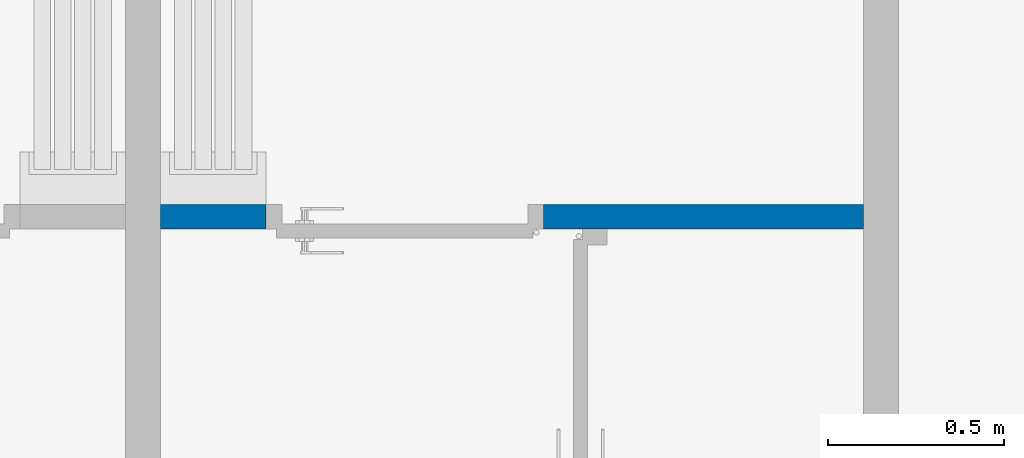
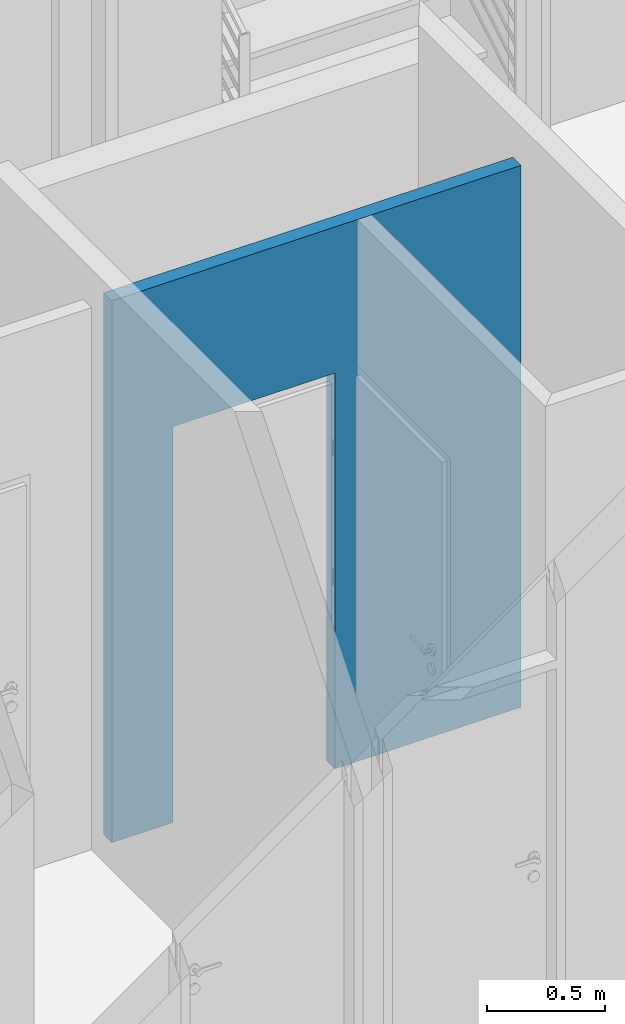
# One storey, part 14 of 45: 1 wall, 1 opening.
"""IFC2X3 building model written with IfcOpenShell, lengths in metres."""

from ifc_helpers import new_model, entity, si_unit, converted_unit, money_unit, direction, frame, origin_with_axes, place, context, subcontext, project, spatial, polyline, outline, extrude, material, layer, layer_set, layer_usage, type_object, element, save


model = new_model("IFC2X3")

# Units and contexts
model_context = context("Model", 3, precision=1e-05, world=origin_with_axes(), true_north=direction((0.0, 1.0)))
body_context = subcontext(model_context, "Body", "Model", "MODEL_VIEW")
ifc_project = project(units=[si_unit("LENGTHUNIT", "METRE"), si_unit("AREAUNIT", "SQUARE_METRE"), si_unit("VOLUMEUNIT", "CUBIC_METRE"), converted_unit("PLANEANGLEUNIT", "DEGREE", entity("IfcPlaneAngleMeasure", 0.0174532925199), si_unit("PLANEANGLEUNIT", "RADIAN"), dimensions=[0, 0, 0, 0, 0, 0, 0]), si_unit("SOLIDANGLEUNIT", "STERADIAN"), money_unit("EUR"), converted_unit("TIMEUNIT", "Year", entity("IfcTimeMeasure", 31556926.0), si_unit("TIMEUNIT", "SECOND"), dimensions=[0, 0, 0, 0, 0, 0, 0]), si_unit("MASSUNIT", "GRAM"), si_unit("THERMODYNAMICTEMPERATUREUNIT", "DEGREE_CELSIUS"), si_unit("LUMINOUSINTENSITYUNIT", "LUMEN")], contexts=[model_context])

# Site, building, storey
site_placement = place(None, origin_with_axes())
site = spatial("IfcSite", under=ifc_project, at=site_placement, Name="Site", CompositionType="ELEMENT")
building_placement = place(site_placement, origin_with_axes())
building = spatial("IfcBuilding", under=site, at=building_placement, Name="Bâtiment", CompositionType="ELEMENT")
storey_placement = place(building_placement, origin_with_axes())
storey = spatial("IfcBuildingStorey", under=building, at=storey_placement, Name="NIVEAU BAS GYMNASE", CompositionType="ELEMENT", Elevation=0.0)

# Wall, opening
ifc_material = material(Name="Hachure solide* 3962059836")
ifc_layer = layer(ifc_material, 0.07, ventilated="UNKNOWN")
ifc_layer_set = layer_set([ifc_layer], Name="Hachure solide* 3962059836 0.07")
ifc_layer_usage = layer_usage(ifc_layer_set, "AXIS2", "POSITIVE", 0.0)
wall_type = type_object("IfcWallType", Name="Hachure solide* 3962059836 70", PredefinedType="NOTDEFINED")
wall_placement = place(storey_placement, frame((49.838457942, 12.308815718, 0.0), z_axis=(0.0, 0.0, 1.0), x_axis=(-1.0, 0.0, 0.0)))
wall = element("IfcWallStandardCase", 1, at=wall_placement, inside=storey, type_object=wall_type, material=ifc_layer_usage, Name="Mur-004", context=body_context, shape_type="SweptSolid", body=[
    extrude(outline(polyline([(0.0, 0.0), (2.0, 0.0), (2.0, 0.07), (0.0, 0.07), (0.0, 0.0)])), origin_with_axes(), (0.0, 0.0, 1.0), 2.8),
])
opening_placement = place(wall_placement, frame((1.30499999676, 0.0, -0.01), z_axis=(0.0, 0.0, 1.0), x_axis=(1.0, 0.0, 0.0)))
element("IfcOpeningElement", 2, at=opening_placement, cuts=wall, Name="Por-021", context=body_context, shape_type="SweptSolid", body=[
    extrude(outline(polyline([(0.395, 0.0), (-0.395, 0.0), (-0.395, -2.055), (0.395, -2.055), (0.395, 0.0)])), frame((0.0, -0.07, 0.0), z_axis=(0.0, 1.0, 0.0), x_axis=(1.0, 0.0, 0.0)), (0.0, 0.0, 1.0), 0.14),
])

save(model, "model.ifc")
